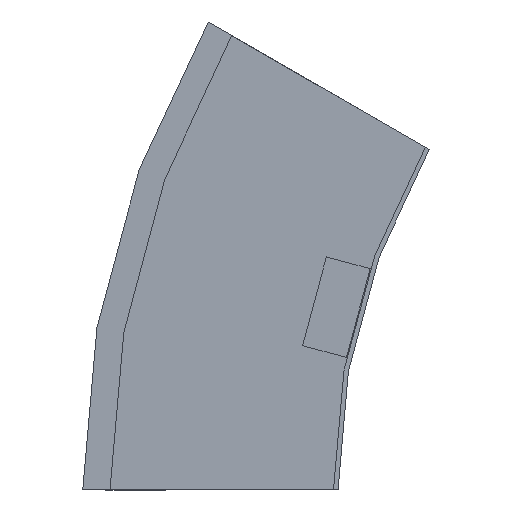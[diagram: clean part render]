
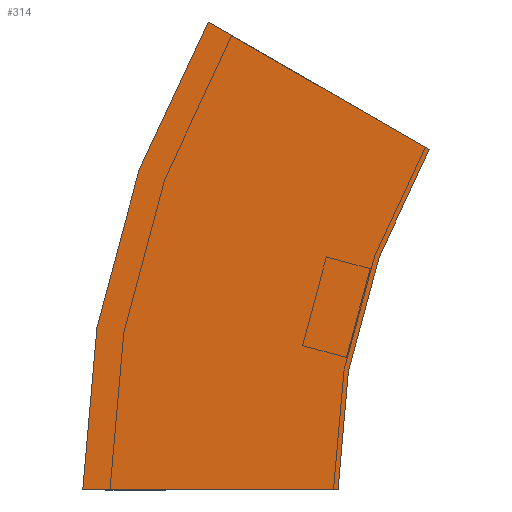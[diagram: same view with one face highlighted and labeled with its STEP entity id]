
A CAD part, left-side view. The second image highlights one B-rep face of the part: STEP entity #314.
In plain terms, the highlighted planar face has unit normal (-1, 0, 0) as drawn and (1, 0, 0) by its records, which use the part's own axes.
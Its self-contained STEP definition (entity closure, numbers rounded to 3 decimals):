
#25 = CARTESIAN_POINT ( 'NONE',  ( 0., -300., 0. ) ) ;
#32 = CARTESIAN_POINT ( 'NONE',  ( 0., -40.192, 150. ) ) ;
#37 = CARTESIAN_POINT ( 'NONE',  ( 0., 112.5, 0. ) ) ;
#58 = VERTEX_POINT ( 'NONE', #37 ) ;
#76 = CARTESIAN_POINT ( 'NONE',  ( 0., -40.192, 150. ) ) ;
#78 = VERTEX_POINT ( 'NONE', #32 ) ;
#83 = ORIENTED_EDGE ( 'NONE', *, *, #102, .T. ) ;
#102 = EDGE_CURVE ( 'NONE', #350, #58, #519, .T. ) ;
#118 = EDGE_CURVE ( 'NONE', #58, #251, #539, .T. ) ;
#156 = VECTOR ( 'NONE', #178, 1000. ) ;
#178 = DIRECTION ( 'NONE',  ( 0., 0.866, 0.5 ) ) ;
#187 = EDGE_CURVE ( 'NONE', #350, #78, #554, .T. ) ;
#188 = CARTESIAN_POINT ( 'NONE',  ( 0., 0., 0. ) ) ;
#204 = DIRECTION ( 'NONE',  ( 1., 0., 0. ) ) ;
#228 = CARTESIAN_POINT ( 'NONE',  ( 0., 0., 0. ) ) ;
#239 = AXIS2_PLACEMENT_3D ( 'NONE', #415, #332, #503 ) ;
#240 = FACE_OUTER_BOUND ( 'NONE', #467, .T. ) ;
#251 = VERTEX_POINT ( 'NONE', #518 ) ;
#293 = AXIS2_PLACEMENT_3D ( 'NONE', #25, #204, #396 ) ;
#313 = LINE ( 'NONE', #76, #156 ) ;
#314 = ADVANCED_FACE ( 'NONE', ( #240 ), #382, .T. ) ;
#332 = DIRECTION ( 'NONE',  ( 1., 0., 0. ) ) ;
#336 = DIRECTION ( 'NONE',  ( 1., 0., 0. ) ) ;
#349 = DIRECTION ( 'NONE',  ( 0., 1., 0. ) ) ;
#350 = VERTEX_POINT ( 'NONE', #228 ) ;
#355 = ORIENTED_EDGE ( 'NONE', *, *, #495, .F. ) ;
#382 = PLANE ( 'NONE',  #521 ) ;
#396 = DIRECTION ( 'NONE',  ( 0., 1., 0. ) ) ;
#415 = CARTESIAN_POINT ( 'NONE',  ( 0., -300., 0. ) ) ;
#428 = CARTESIAN_POINT ( 'NONE',  ( 0., 0., 0. ) ) ;
#467 = EDGE_LOOP ( 'NONE', ( #487, #355, #482, #83 ) ) ;
#482 = ORIENTED_EDGE ( 'NONE', *, *, #187, .F. ) ;
#487 = ORIENTED_EDGE ( 'NONE', *, *, #118, .T. ) ;
#493 = VECTOR ( 'NONE', #349, 1000. ) ;
#495 = EDGE_CURVE ( 'NONE', #78, #251, #313, .T. ) ;
#503 = DIRECTION ( 'NONE',  ( 0., 1., 0. ) ) ;
#504 = DIRECTION ( 'NONE',  ( 0., 0., -1. ) ) ;
#518 = CARTESIAN_POINT ( 'NONE',  ( 0., 57.235, 206.25 ) ) ;
#519 = LINE ( 'NONE', #428, #493 ) ;
#521 = AXIS2_PLACEMENT_3D ( 'NONE', #188, #336, #504 ) ;
#539 = CIRCLE ( 'NONE', #293, 412.5 ) ;
#554 = CIRCLE ( 'NONE', #239, 300. ) ;
